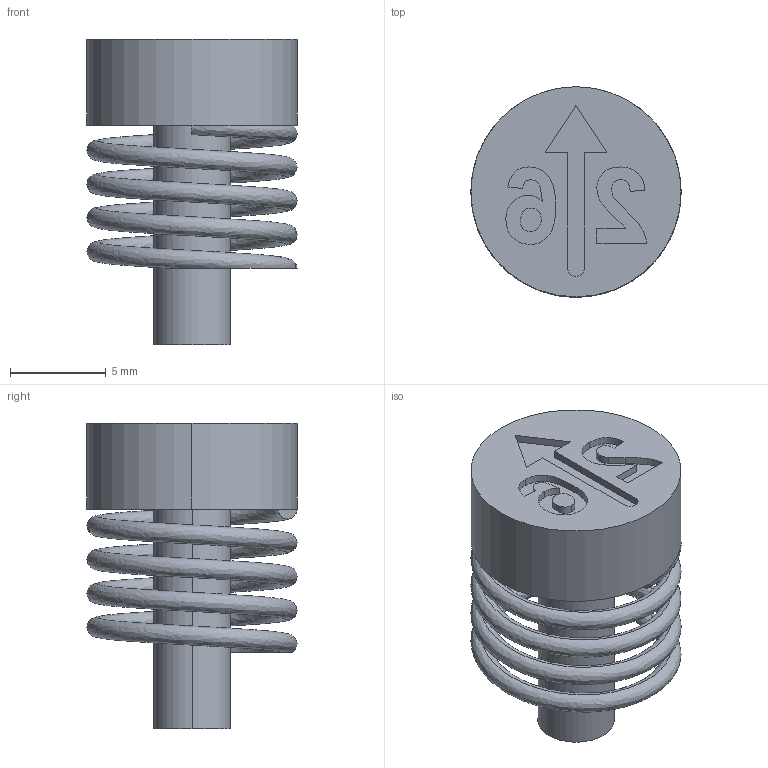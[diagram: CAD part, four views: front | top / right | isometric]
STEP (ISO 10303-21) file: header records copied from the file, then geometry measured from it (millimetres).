
FILE_DESCRIPTION (( 'STEP AP203' ), '1' );
FILE_NAME ('DCP20-26.step', '2025-04-15T18:36:24', ( '' ), ( '' ), 'SwSTEP 2.0', 'SolidWorks 2023', '' );
FILE_SCHEMA (( 'CONFIG_CONTROL_DESIGN' ));
Length unit declared in the file: millimetre
Products named in the file (3): DCP20-26; DCSPR20
Assembly tree (2 placements, depth 2):
  DCP20-26
    DCP20-26
    DCSPR20
Bounding box: 11 x 11 x 16 mm (x, y, z)
Volume: 665.9 mm3; surface area: 930.1 mm2
Topology: 2 solids, 2 shells, 50 faces, 123 edges, 82 vertices
Faces by surface type: bspline 23, plane 22, cylinder 5
Entity records: 4329 total; most frequent: CARTESIAN_POINT 2992, ORIENTED_EDGE 246, DIRECTION 153, EDGE_CURVE 123, VERTEX_POINT 82, VECTOR 61, LINE 61, EDGE_LOOP 55
